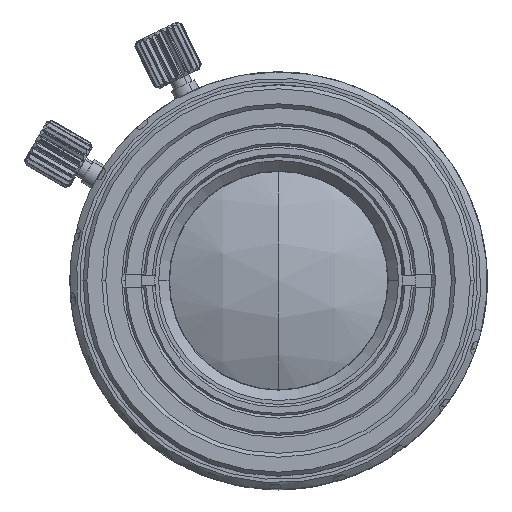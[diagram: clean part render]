
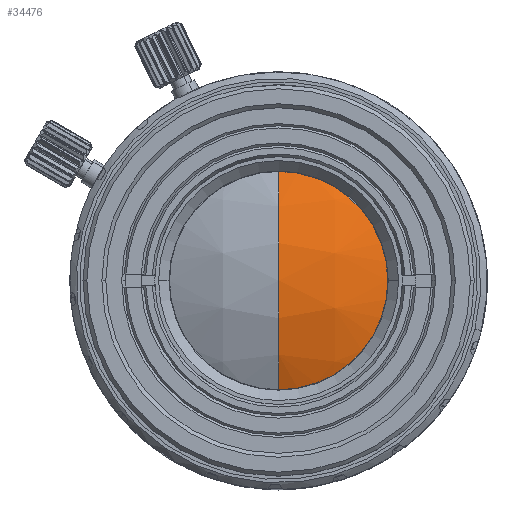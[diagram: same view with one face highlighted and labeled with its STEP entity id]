
A CAD part, top view. The second image highlights one B-rep face of the part: STEP entity #34476.
In plain terms, the highlighted spherical face has radius 19 mm.
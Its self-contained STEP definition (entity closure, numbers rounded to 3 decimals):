
#1967 = DIRECTION ( 'NONE',  ( 0., 0., 1. ) ) ;
#6415 = EDGE_CURVE ( 'NONE', #23895, #36933, #29549, .T. ) ;
#8997 = DIRECTION ( 'NONE',  ( 1., 0., 0. ) ) ;
#11241 = ORIENTED_EDGE ( 'NONE', *, *, #38702, .T. ) ;
#11522 = CARTESIAN_POINT ( 'NONE',  ( 0., 0., 10.75 ) ) ;
#12967 = AXIS2_PLACEMENT_3D ( 'NONE', #16085, #53669, #41530 ) ;
#15477 = DIRECTION ( 'NONE',  ( 0., -1., 0. ) ) ;
#15507 = CARTESIAN_POINT ( 'NONE',  ( 0., -8.369, 27.808 ) ) ;
#15751 = DIRECTION ( 'NONE',  ( -1., 0., 0. ) ) ;
#16085 = CARTESIAN_POINT ( 'NONE',  ( 0., 0., 10.75 ) ) ;
#16378 = ORIENTED_EDGE ( 'NONE', *, *, #39761, .F. ) ;
#17754 = CARTESIAN_POINT ( 'NONE',  ( 0., 0., 10.75 ) ) ;
#21446 = DIRECTION ( 'NONE',  ( 0., 0., -1. ) ) ;
#21775 = CARTESIAN_POINT ( 'NONE',  ( 0., 0., 29.75 ) ) ;
#22859 = CARTESIAN_POINT ( 'NONE',  ( 0., 8.369, 27.808 ) ) ;
#23180 = DIRECTION ( 'NONE',  ( -1., 0., 0. ) ) ;
#23824 = AXIS2_PLACEMENT_3D ( 'NONE', #17754, #8997, #21446 ) ;
#23895 = VERTEX_POINT ( 'NONE', #15507 ) ;
#26559 = CARTESIAN_POINT ( 'NONE',  ( 0., 0., 27.808 ) ) ;
#29549 = CIRCLE ( 'NONE', #31383, 8.369 ) ;
#31383 = AXIS2_PLACEMENT_3D ( 'NONE', #26559, #1967, #23180 ) ;
#34476 = ADVANCED_FACE ( 'NONE', ( #50003 ), #50280, .T. ) ;
#34957 = EDGE_LOOP ( 'NONE', ( #16378, #50837, #11241 ) ) ;
#35531 = CIRCLE ( 'NONE', #23824, 19. ) ;
#36933 = VERTEX_POINT ( 'NONE', #22859 ) ;
#37486 = VERTEX_POINT ( 'NONE', #21775 ) ;
#38702 = EDGE_CURVE ( 'NONE', #36933, #37486, #35531, .T. ) ;
#39761 = EDGE_CURVE ( 'NONE', #23895, #37486, #43752, .T. ) ;
#41530 = DIRECTION ( 'NONE',  ( 0., 1., 0. ) ) ;
#41947 = AXIS2_PLACEMENT_3D ( 'NONE', #11522, #15751, #15477 ) ;
#43752 = CIRCLE ( 'NONE', #41947, 19. ) ;
#50003 = FACE_OUTER_BOUND ( 'NONE', #34957, .T. ) ;
#50280 = SPHERICAL_SURFACE ( 'NONE', #12967, 19. ) ;
#50837 = ORIENTED_EDGE ( 'NONE', *, *, #6415, .T. ) ;
#53669 = DIRECTION ( 'NONE',  ( -1., 0., 0. ) ) ;
